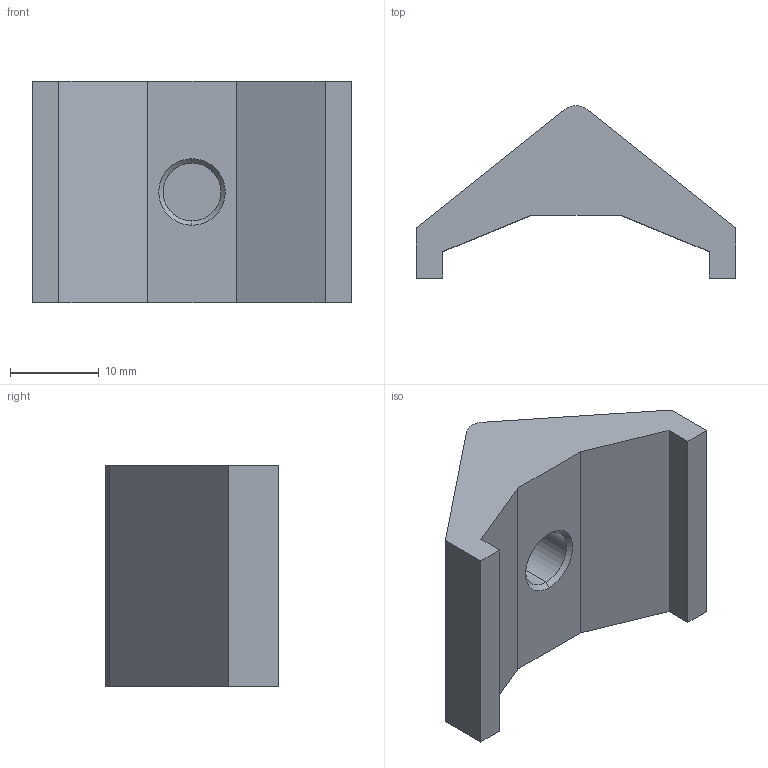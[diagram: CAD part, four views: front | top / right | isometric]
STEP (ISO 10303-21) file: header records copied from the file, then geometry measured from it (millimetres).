
FILE_DESCRIPTION (( 'STEP AP214' ), '1' );
FILE_NAME ('das_keyboard_ultimate_leg.STEP', '2015-01-16T02:22:30', ( '' ), ( '' ), 'SwSTEP 2.0', 'SolidWorks 2013', '' );
FILE_SCHEMA (( 'AUTOMOTIVE_DESIGN' ));
Length unit declared in the file: millimetre
Products named in the file (1): das_keyboard_ultimate_leg
Bounding box: 36 x 19.44 x 25 mm (x, y, z)
Volume: 6960 mm3; surface area: 3247.3 mm2
Topology: 1 solids, 1 shells, 19 faces, 46 edges, 30 vertices
Faces by surface type: plane 14, cylinder 3, cone 2
Entity records: 588 total; most frequent: CARTESIAN_POINT 96, DIRECTION 94, ORIENTED_EDGE 92, EDGE_CURVE 46, VECTOR 38, LINE 38, VERTEX_POINT 30, AXIS2_PLACEMENT_3D 28
